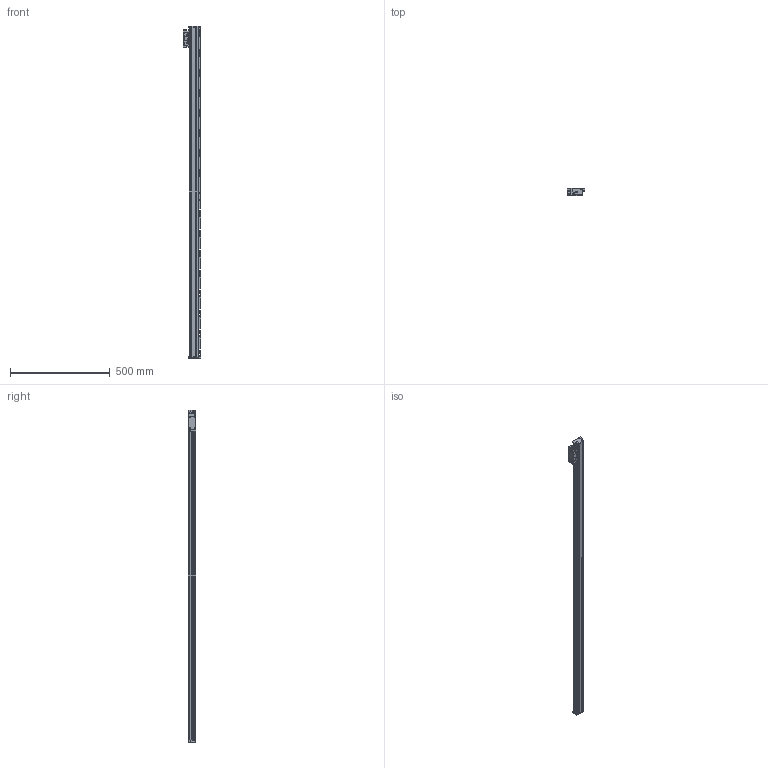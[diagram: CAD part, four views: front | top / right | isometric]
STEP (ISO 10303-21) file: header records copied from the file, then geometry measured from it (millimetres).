
FILE_DESCRIPTION(/* description */ (''),/* implementation_level */ '2;1');
FILE_NAME(/* name */ 'JC21A-1540-1.stp',/* time_stamp */ '2023-12-21T16:41:51+08:00',/* author */ (''),/* organization */ (''),/* preprocessor_version */ 'ST-DEVELOPER v14',/* originating_system */ 'SIEMENS PLM Software NX 8.0',/* authorisation */ '');
FILE_SCHEMA (('CONFIG_CONTROL_DESIGN'));
Length unit declared in the file: millimetre
Products named in the file (1): JC21A-1540-1
Bounding box: 87.5 x 37 x 1661 mm (x, y, z)
Volume: 2616305.5 mm3; surface area: 430368.3 mm2
Topology: 4 solids, 6 shells, 1005 faces, 2974 edges, 1977 vertices
Faces by surface type: plane 628, cylinder 345, cone 22, bspline 8, extrusion 2
Full cylindrical faces by diameter (mm): 2.5 x12, 3.3 x6, 3.7 x4, 4.2 x4, 5 x2, 6 x6, 6.6 x2, 6.8 x18, 7 x2, 13.2 x2
Entity records: 34221 total; most frequent: CARTESIAN_POINT 6967, ORIENTED_EDGE 5720, DIRECTION 5644, EDGE_CURVE 2860, VERTEX_POINT 1943, AXIS2_PLACEMENT_3D 1885, VECTOR 1874, LINE 1872
